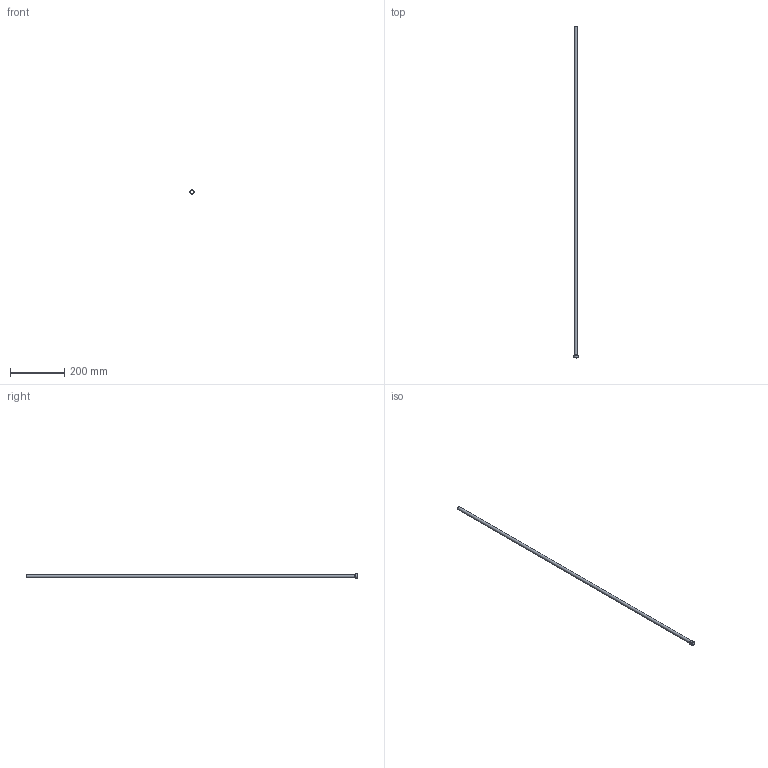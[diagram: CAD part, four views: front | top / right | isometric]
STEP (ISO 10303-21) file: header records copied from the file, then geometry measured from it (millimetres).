
FILE_DESCRIPTION(/* description */ (''),/* implementation_level */ '2;1');
FILE_NAME(/* name */ 'C:/Users/drich/Desktop/PT38-437-48 v1.step',/* time_stamp */ '2019-12-27T15:57:50-06:00',/* author */ (''),/* organization */ (''),/* preprocessor_version */ 'ST-DEVELOPER v18',/* originating_system */ 'Autodesk Translation Framework v8.12.0.6',/* authorisation */ '');
FILE_SCHEMA (('AUTOMOTIVE_DESIGN { 1 0 10303 214 3 1 1 }'));
Length unit declared in the file: inch
Products named in the file (1): PT38-437-48
Bounding box: 16.54 x 1219.2 x 16.54 mm (x, y, z)
Volume: 16148.4 mm3; surface area: 80507.6 mm2
Topology: 1 solids, 1 shells, 30 faces, 71 edges, 45 vertices
Faces by surface type: plane 22, cylinder 4, torus 2, cone 2
Full cylindrical faces by diameter (mm): 10.084 x1, 10.82 x1, 13.868 x1, 16.537 x1
Entity records: 913 total; most frequent: DIRECTION 168, CARTESIAN_POINT 147, ORIENTED_EDGE 142, EDGE_CURVE 71, AXIS2_PLACEMENT_3D 66, VERTEX_POINT 45, LINE 36, VECTOR 36
